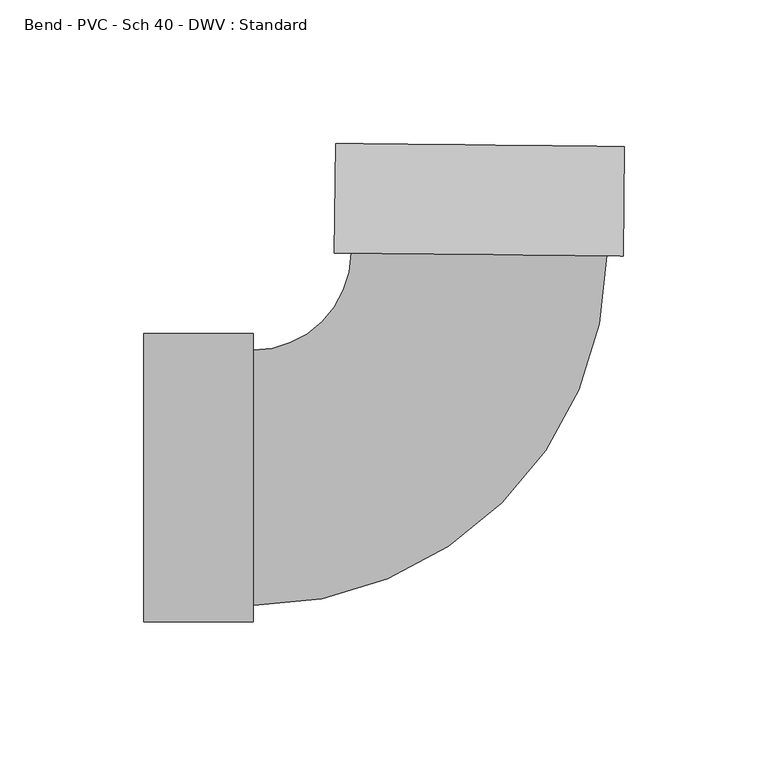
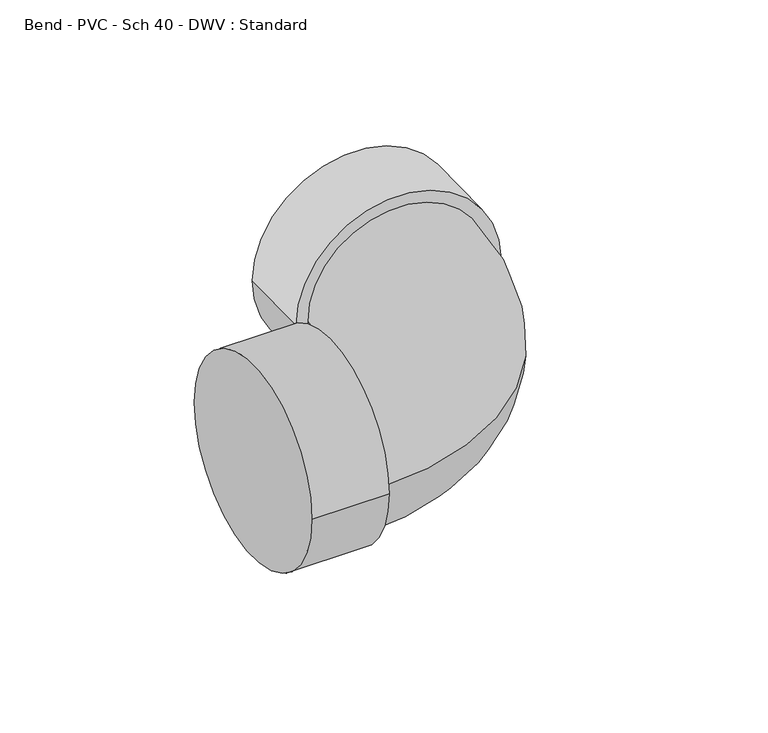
"""IFC4 building model written with IfcOpenShell, lengths in millimetres: pipe fitting geometry, Bend - PVC - Sch 40 - DWV : Standard."""

from ifc_helpers import new_model, si_unit, point, frame, origin, place, context, project, spatial, circle_curve, ellipse_curve, trimmed, source, transform, mapped, element, save
from ifc_brep_helpers import plane_surface, cylinder_surface, revolved_surface, advanced_brep


def bend_pvc_sch_40_dwv_standard_5536a2d2(model_context):
    return source(origin(), model_context, "Body", "AdvancedBrep", [
        advanced_brep(
        [(-115.9002, -50.2666, 0.0), (-115.9002, 50.2666, 0.0), (-77.8002, -50.2666, 0.0), (-77.8002, 50.2666, 0.0), (-77.8002, -44.45, 0.0), (-77.8002, 44.45, 0.0), (-43.6372138, 78.2589751, 0.0), (45.2579634, 77.3329837, 0.0), (51.0742479, 77.2723974, 0.0), (-49.4534983, 78.3195614, 0.0), (51.4711013, 115.3703305, 0.0), (-49.0566448, 116.4174945, 0.0)],
        [
            (0, 1, circle_curve(frame((-115.9002, 0.0, 0.0), z_axis=(-1.0, 0.0, 0.0), x_axis=(0.0, 1.0, 0.0)), 50.2666)),
            (1, 0, circle_curve(frame((-115.9002, 0.0, 0.0), z_axis=(-1.0, 0.0, 0.0), x_axis=(0.0, 1.0, 0.0)), 50.2666)),
            (2, 3, circle_curve(frame((-77.8002, 0.0, 0.0), z_axis=(1.0, 0.0, 0.0), x_axis=(0.0, 1.0, 0.0)), 50.2666)),
            (3, 2, circle_curve(frame((-77.8002, 0.0, 0.0), z_axis=(1.0, 0.0, 0.0), x_axis=(0.0, 1.0, 0.0)), 50.2666)),
            (4, 5, circle_curve(frame((-77.8002, 0.0, 0.0), z_axis=(-1.0, 0.0, 0.0), x_axis=(0.0, 1.0, 0.0)), 44.45)),
            (5, 4, circle_curve(frame((-77.8002, 0.0, 0.0), z_axis=(-1.0, 0.0, 0.0), x_axis=(0.0, 1.0, 0.0)), 44.45)),
            (0, 2),
            (3, 1),
            (6, 5, circle_curve(frame((-77.8002, 78.6148396, 0.0), z_axis=(0.0, 0.0, -1.0), x_axis=(0.0, -1.0, 0.0)), 34.1648396)),
            (4, 7, circle_curve(frame((-77.8002, 78.6148396, 0.0), z_axis=(0.0, 0.0, 1.0), x_axis=(0.0, -1.0, 0.0)), 123.0648396)),
            (7, 6, circle_curve(frame((0.8103748, 77.7959794, 0.0), z_axis=(-0.010416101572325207, -0.9999457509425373, 0.0), x_axis=(-0.9999457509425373, 0.010416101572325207, 0.0)), 44.45)),
            (6, 7, circle_curve(frame((0.8103748, 77.7959794, 0.0), z_axis=(-0.010416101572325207, -0.9999457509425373, 0.0), x_axis=(-0.9999457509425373, 0.010416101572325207, 0.0)), 44.45)),
            (8, 9, circle_curve(frame((0.8103748, 77.7959794, 0.0), z_axis=(-0.010416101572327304, -0.9999457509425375, 0.0), x_axis=(-0.9999457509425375, 0.010416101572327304, 0.0)), 50.2666)),
            (9, 8, circle_curve(frame((0.8103748, 77.7959794, 0.0), z_axis=(-0.010416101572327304, -0.9999457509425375, 0.0), x_axis=(-0.9999457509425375, 0.010416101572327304, 0.0)), 50.2666)),
            (10, 11, circle_curve(frame((1.2072283, 115.8939125, 0.0), z_axis=(0.010416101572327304, 0.9999457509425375, 0.0), x_axis=(-0.9999457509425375, 0.010416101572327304, 0.0)), 50.2666)),
            (11, 10, circle_curve(frame((1.2072283, 115.8939125, 0.0), z_axis=(0.010416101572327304, 0.9999457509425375, 0.0), x_axis=(-0.9999457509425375, 0.010416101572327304, 0.0)), 50.2666)),
            (8, 10),
            (11, 9),
        ],
        [
            plane_surface(frame((-115.9002, 0.0, 0.0), z_axis=(-1.0, 0.0, 0.0), x_axis=(0.0, 0.0, 1.0))),
            plane_surface(frame((-77.8002, 0.0, 0.0), z_axis=(1.0, 0.0, 0.0), x_axis=(0.0, 0.0, 1.0))),
            cylinder_surface(frame((-115.9002, 0.0, 0.0), z_axis=(-1.0, 0.0, 0.0), x_axis=(0.0, 1.0, 0.0)), 50.2666),
            revolved_surface(trimmed(ellipse_curve(frame((-77.8002, 0.0, 0.0), z_axis=(-1.0, 0.0, 0.0), x_axis=(0.0, 1.0, 0.0)), 44.45, 44.45), [point((-77.8002, -44.45, 0.0))], [point((-77.8002, 44.45, 0.0))], True, "CARTESIAN"), (-77.8002, 78.6148396, 0.0), (0.0, 0.0, 1.0)),
            revolved_surface(trimmed(ellipse_curve(frame((-77.8002, 0.0, 0.0), z_axis=(-1.0, 0.0, 0.0), x_axis=(0.0, 1.0, 0.0)), 44.45, 44.45), [point((-77.8002, 44.45, 0.0))], [point((-77.8002, -44.45, 0.0))], True, "CARTESIAN"), (-77.8002, 78.6148396, 0.0), (0.0, 0.0, 1.0)),
            plane_surface(frame((0.8103748, 77.7959794, 0.0), z_axis=(-0.010416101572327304, -0.9999457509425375, 0.0), x_axis=(0.0, 0.0, 1.0))),
            plane_surface(frame((1.2072283, 115.8939125, 0.0), z_axis=(0.010416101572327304, 0.9999457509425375, 0.0), x_axis=(0.0, 0.0, 1.0))),
            cylinder_surface(frame((0.8103748, 77.7959794, 0.0), z_axis=(-0.010416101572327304, -0.9999457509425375, 0.0), x_axis=(-0.9999457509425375, 0.010416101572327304, 0.0)), 50.2666),
        ],
        [
            (0, [[1, 2]]),
            (1, [[3, 4], [5, 6]]),
            (2, [[-1, 7, -4, 8]]),
            (2, [[-2, -8, -3, -7]]),
            (3, [[9, -5, 10, 11]]),
            (4, [[-9, 12, -10, -6]]),
            (5, [[13, 14], [-11, -12]]),
            (6, [[15, 16]]),
            (7, [[-13, 17, -16, 18]]),
            (7, [[-14, -18, -15, -17]]),
        ],
    ),
    ])


if __name__ == "__main__":
    model = new_model("IFC4")
    model_context = context("Model", 3, world=origin())
    ifc_project = project(units=[si_unit("LENGTHUNIT", "METRE", prefix="MILLI")], contexts=[model_context])
    site = spatial("IfcSite", under=ifc_project)
    building = spatial("IfcBuilding", under=site)
    placement = place(None, origin())
    bend_pvc_sch_40_dwv_standard_shape = bend_pvc_sch_40_dwv_standard_5536a2d2(model_context)
    element("IfcPipeFitting", 1, ObjectType="Bend - PVC - Sch 40 - DWV : Standard", at=placement, inside=building, context=model_context, shape_type="MappedRepresentation", body=[
        mapped(bend_pvc_sch_40_dwv_standard_shape, transform((0.0, 0.0, 0.0), x_axis=(1.0, 0.0, 0.0), y_axis=(0.0, 1.0, 0.0), z_axis=(0.0, 0.0, 1.0))),
    ])
    save(model, "model.ifc")
